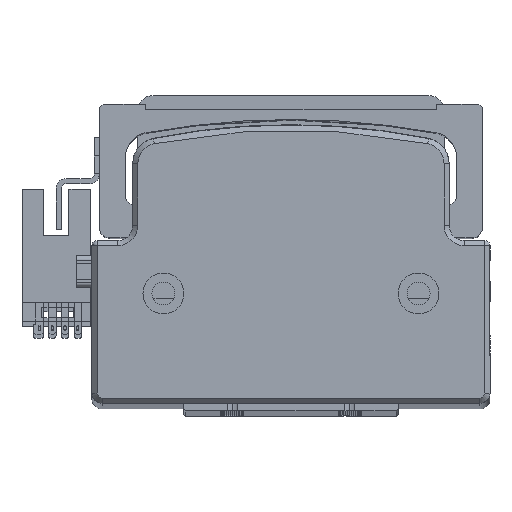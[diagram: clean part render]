
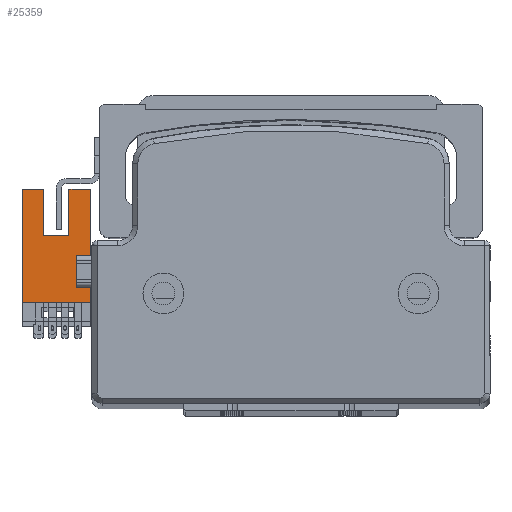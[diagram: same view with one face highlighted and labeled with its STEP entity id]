
A CAD part, top view. The second image highlights one B-rep face of the part: STEP entity #25359.
In plain terms, the highlighted planar face has unit normal (0, 0, 1) as drawn and (1, 0, 0) by its records, which use the part's own axes.
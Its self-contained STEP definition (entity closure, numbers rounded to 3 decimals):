
#1037 = EDGE_CURVE ( 'NONE', #26670, #38030, #23956, .T. ) ;
#1677 = VERTEX_POINT ( 'NONE', #23831 ) ;
#1902 = LINE ( 'NONE', #15124, #40015 ) ;
#2428 = FACE_OUTER_BOUND ( 'NONE', #24232, .T. ) ;
#3097 = DIRECTION ( 'NONE',  ( 0., 0., 1. ) ) ;
#3818 = DIRECTION ( 'NONE',  ( 0., -1., 0. ) ) ;
#3943 = CARTESIAN_POINT ( 'NONE',  ( 3.2, 6.55, 22.2 ) ) ;
#4454 = VERTEX_POINT ( 'NONE', #36458 ) ;
#5328 = CARTESIAN_POINT ( 'NONE',  ( 3.2, -6.85, 0. ) ) ;
#5744 = VECTOR ( 'NONE', #13648, 1000. ) ;
#6974 = DIRECTION ( 'NONE',  ( 0., 1., 0. ) ) ;
#7020 = EDGE_CURVE ( 'NONE', #46000, #39859, #35525, .T. ) ;
#7596 = CARTESIAN_POINT ( 'NONE',  ( 3.2, 3.85, 0. ) ) ;
#8025 = EDGE_CURVE ( 'NONE', #20738, #12118, #1902, .T. ) ;
#8516 = CARTESIAN_POINT ( 'NONE',  ( 3.2, 3.85, 3. ) ) ;
#8972 = EDGE_CURVE ( 'NONE', #30665, #1677, #18667, .T. ) ;
#11108 = ORIENTED_EDGE ( 'NONE', *, *, #20558, .T. ) ;
#11124 = VECTOR ( 'NONE', #22505, 1000. ) ;
#12079 = ORIENTED_EDGE ( 'NONE', *, *, #8972, .T. ) ;
#12118 = VERTEX_POINT ( 'NONE', #20925 ) ;
#12315 = VECTOR ( 'NONE', #14926, 1000. ) ;
#12393 = EDGE_CURVE ( 'NONE', #14099, #38030, #34092, .T. ) ;
#12937 = EDGE_CURVE ( 'NONE', #28888, #12118, #30357, .T. ) ;
#13648 = DIRECTION ( 'NONE',  ( 0., 1., 0. ) ) ;
#13866 = EDGE_CURVE ( 'NONE', #39859, #20738, #47547, .T. ) ;
#13935 = ORIENTED_EDGE ( 'NONE', *, *, #41390, .F. ) ;
#14099 = VERTEX_POINT ( 'NONE', #42912 ) ;
#14390 = CARTESIAN_POINT ( 'NONE',  ( 3.2, -2.65, 22.2 ) ) ;
#14452 = CARTESIAN_POINT ( 'NONE',  ( 3.2, -6.85, 9.2 ) ) ;
#14926 = DIRECTION ( 'NONE',  ( 0., 0., 1. ) ) ;
#15124 = CARTESIAN_POINT ( 'NONE',  ( 3.2, 3.85, 22.2 ) ) ;
#15389 = DIRECTION ( 'NONE',  ( 0., 0., 1. ) ) ;
#16364 = EDGE_CURVE ( 'NONE', #4454, #28888, #35132, .T. ) ;
#16381 = ORIENTED_EDGE ( 'NONE', *, *, #33604, .F. ) ;
#18665 = CARTESIAN_POINT ( 'NONE',  ( 3.2, -2.65, 13.2 ) ) ;
#18667 = LINE ( 'NONE', #44331, #46833 ) ;
#19038 = CARTESIAN_POINT ( 'NONE',  ( 3.2, 3.85, 9.2 ) ) ;
#20558 = EDGE_CURVE ( 'NONE', #4454, #30665, #47877, .T. ) ;
#20738 = VERTEX_POINT ( 'NONE', #3943 ) ;
#20925 = CARTESIAN_POINT ( 'NONE',  ( 3.2, 2.35, 22.2 ) ) ;
#22150 = DIRECTION ( 'NONE',  ( 0., 0., -1. ) ) ;
#22505 = DIRECTION ( 'NONE',  ( 0., -1., 0. ) ) ;
#23218 = VECTOR ( 'NONE', #44525, 1000. ) ;
#23245 = ORIENTED_EDGE ( 'NONE', *, *, #12393, .T. ) ;
#23831 = CARTESIAN_POINT ( 'NONE',  ( 3.2, -6.85, 22.2 ) ) ;
#23956 = LINE ( 'NONE', #8516, #43498 ) ;
#23960 = CARTESIAN_POINT ( 'NONE',  ( 3.2, 6.55, 9.2 ) ) ;
#24232 = EDGE_LOOP ( 'NONE', ( #11108, #12079, #13935, #16381, #23245, #25734, #27922, #30404, #35225, #37633, #40137, #42760 ) ) ;
#24235 = CARTESIAN_POINT ( 'NONE',  ( 3.2, 3.85, 3. ) ) ;
#25151 = AXIS2_PLACEMENT_3D ( 'NONE', #43993, #44148, #22150 ) ;
#25359 = ADVANCED_FACE ( 'NONE', ( #2428 ), #29317, .T. ) ;
#25734 = ORIENTED_EDGE ( 'NONE', *, *, #1037, .F. ) ;
#25780 = LINE ( 'NONE', #5328, #34350 ) ;
#26158 = DIRECTION ( 'NONE',  ( 0., -1., 0. ) ) ;
#26392 = CARTESIAN_POINT ( 'NONE',  ( 3.2, 2.35, 13.2 ) ) ;
#26670 = VERTEX_POINT ( 'NONE', #24235 ) ;
#27414 = DIRECTION ( 'NONE',  ( 0., 0., 1. ) ) ;
#27922 = ORIENTED_EDGE ( 'NONE', *, *, #35944, .T. ) ;
#28253 = VECTOR ( 'NONE', #44336, 1000. ) ;
#28888 = VERTEX_POINT ( 'NONE', #26392 ) ;
#29317 = PLANE ( 'NONE',  #25151 ) ;
#30357 = LINE ( 'NONE', #37355, #37858 ) ;
#30404 = ORIENTED_EDGE ( 'NONE', *, *, #7020, .T. ) ;
#30665 = VERTEX_POINT ( 'NONE', #14390 ) ;
#33604 = EDGE_CURVE ( 'NONE', #14099, #34427, #40455, .T. ) ;
#34092 = LINE ( 'NONE', #41116, #23218 ) ;
#34350 = VECTOR ( 'NONE', #27414, 1000. ) ;
#34427 = VERTEX_POINT ( 'NONE', #39452 ) ;
#35132 = LINE ( 'NONE', #43201, #5744 ) ;
#35225 = ORIENTED_EDGE ( 'NONE', *, *, #13866, .T. ) ;
#35525 = LINE ( 'NONE', #14452, #44214 ) ;
#35944 = EDGE_CURVE ( 'NONE', #26670, #46000, #42799, .T. ) ;
#36458 = CARTESIAN_POINT ( 'NONE',  ( 3.2, -2.65, 13.2 ) ) ;
#36556 = VECTOR ( 'NONE', #3097, 1000. ) ;
#37136 = CARTESIAN_POINT ( 'NONE',  ( 3.2, 3.85, 0. ) ) ;
#37355 = CARTESIAN_POINT ( 'NONE',  ( 3.2, 2.35, 13.2 ) ) ;
#37633 = ORIENTED_EDGE ( 'NONE', *, *, #8025, .T. ) ;
#37858 = VECTOR ( 'NONE', #15389, 1000. ) ;
#38030 = VERTEX_POINT ( 'NONE', #45027 ) ;
#39452 = CARTESIAN_POINT ( 'NONE',  ( 3.2, -6.85, 0. ) ) ;
#39859 = VERTEX_POINT ( 'NONE', #23960 ) ;
#40015 = VECTOR ( 'NONE', #26158, 1000. ) ;
#40137 = ORIENTED_EDGE ( 'NONE', *, *, #12937, .F. ) ;
#40455 = LINE ( 'NONE', #37136, #11124 ) ;
#41116 = CARTESIAN_POINT ( 'NONE',  ( 3.2, 6.55, 0. ) ) ;
#41390 = EDGE_CURVE ( 'NONE', #34427, #1677, #25780, .T. ) ;
#41715 = DIRECTION ( 'NONE',  ( 0., 1., 0. ) ) ;
#42760 = ORIENTED_EDGE ( 'NONE', *, *, #16364, .F. ) ;
#42799 = LINE ( 'NONE', #7596, #12315 ) ;
#42912 = CARTESIAN_POINT ( 'NONE',  ( 3.2, 6.55, 0. ) ) ;
#43201 = CARTESIAN_POINT ( 'NONE',  ( 3.2, 2.35, 13.2 ) ) ;
#43498 = VECTOR ( 'NONE', #41715, 1000. ) ;
#43993 = CARTESIAN_POINT ( 'NONE',  ( 3.2, 3.85, 0. ) ) ;
#44148 = DIRECTION ( 'NONE',  ( 1., 0., 0. ) ) ;
#44214 = VECTOR ( 'NONE', #6974, 1000. ) ;
#44331 = CARTESIAN_POINT ( 'NONE',  ( 3.2, 3.85, 22.2 ) ) ;
#44336 = DIRECTION ( 'NONE',  ( 0., 0., 1. ) ) ;
#44525 = DIRECTION ( 'NONE',  ( 0., 0., 1. ) ) ;
#45027 = CARTESIAN_POINT ( 'NONE',  ( 3.2, 6.55, 3. ) ) ;
#46000 = VERTEX_POINT ( 'NONE', #19038 ) ;
#46833 = VECTOR ( 'NONE', #3818, 1000. ) ;
#47298 = CARTESIAN_POINT ( 'NONE',  ( 3.2, 6.55, 0. ) ) ;
#47547 = LINE ( 'NONE', #47298, #36556 ) ;
#47877 = LINE ( 'NONE', #18665, #28253 ) ;
